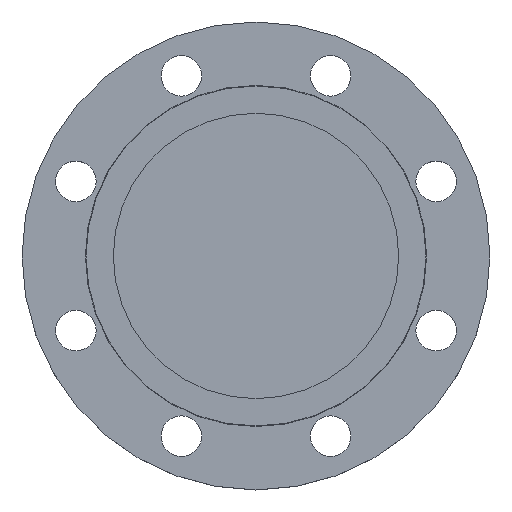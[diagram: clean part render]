
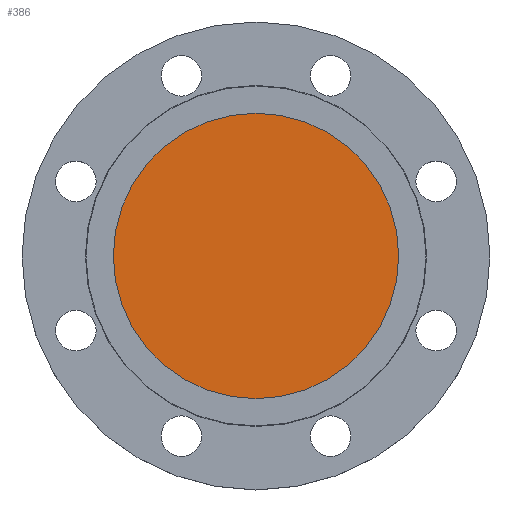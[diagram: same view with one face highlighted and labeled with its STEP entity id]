
A CAD part, top view. The second image highlights one B-rep face of the part: STEP entity #386.
In plain terms, the highlighted planar face has unit normal (0, 0, 1).
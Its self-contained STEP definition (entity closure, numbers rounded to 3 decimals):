
#15 = CARTESIAN_POINT ( 'NONE',  ( 91.5, 0., -5. ) ) ;
#21 = ORIENTED_EDGE ( 'NONE', *, *, #565, .F. ) ;
#147 = VERTEX_POINT ( 'NONE', #15 ) ;
#155 = AXIS2_PLACEMENT_3D ( 'NONE', #335, #599, #838 ) ;
#172 = EDGE_CURVE ( 'NONE', #862, #147, #408, .T. ) ;
#306 = AXIS2_PLACEMENT_3D ( 'NONE', #358, #620, #855 ) ;
#312 = CARTESIAN_POINT ( 'NONE',  ( 0., 0., -5. ) ) ;
#335 = CARTESIAN_POINT ( 'NONE',  ( 0., 0., -5. ) ) ;
#358 = CARTESIAN_POINT ( 'NONE',  ( 0., 0., -5. ) ) ;
#386 = ADVANCED_FACE ( 'NONE', ( #645 ), #872, .T. ) ;
#407 = CARTESIAN_POINT ( 'NONE',  ( -91.5, 0., -5. ) ) ;
#408 = CIRCLE ( 'NONE', #306, 91.5 ) ;
#455 = CIRCLE ( 'NONE', #155, 91.5 ) ;
#565 = EDGE_CURVE ( 'NONE', #147, #862, #455, .T. ) ;
#584 = DIRECTION ( 'NONE',  ( 0., 0., 1. ) ) ;
#599 = DIRECTION ( 'NONE',  ( 0., 0., -1. ) ) ;
#620 = DIRECTION ( 'NONE',  ( 0., 0., -1. ) ) ;
#645 = FACE_OUTER_BOUND ( 'NONE', #706, .T. ) ;
#706 = EDGE_LOOP ( 'NONE', ( #742, #21 ) ) ;
#742 = ORIENTED_EDGE ( 'NONE', *, *, #172, .F. ) ;
#777 = AXIS2_PLACEMENT_3D ( 'NONE', #312, #584, #827 ) ;
#827 = DIRECTION ( 'NONE',  ( 1., 0., 0. ) ) ;
#838 = DIRECTION ( 'NONE',  ( -1., 0., 0. ) ) ;
#855 = DIRECTION ( 'NONE',  ( -1., 0., 0. ) ) ;
#862 = VERTEX_POINT ( 'NONE', #407 ) ;
#872 = PLANE ( 'NONE',  #777 ) ;
